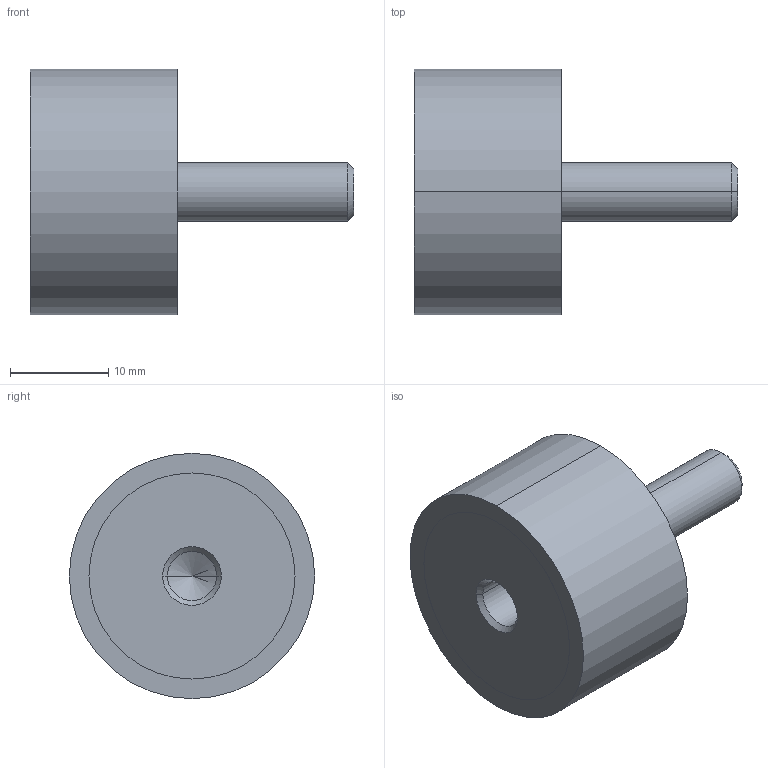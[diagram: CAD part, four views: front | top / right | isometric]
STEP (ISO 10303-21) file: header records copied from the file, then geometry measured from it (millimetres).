
FILE_DESCRIPTION (( 'STEP AP214' ), '1' );
FILE_NAME ('351-25-15-M6-ES-40.step', '2025-07-23T09:58:02', ( '' ), ( '' ), 'SwSTEP 2.0', 'SolidWorks 2022', '' );
FILE_SCHEMA (( 'AUTOMOTIVE_DESIGN' ));
Length unit declared in the file: millimetre
Products named in the file (1): 351-25-15-M6-ES-40
Bounding box: 33 x 25 x 25 mm (x, y, z)
Volume: 7713.4 mm3; surface area: 2601.3 mm2
Topology: 1 solids, 1 shells, 24 faces, 48 edges, 29 vertices
Faces by surface type: cylinder 12, cone 6, plane 6
Entity records: 740 total; most frequent: DIRECTION 124, CARTESIAN_POINT 100, ORIENTED_EDGE 92, AXIS2_PLACEMENT_3D 53, EDGE_CURVE 46, VERTEX_POINT 29, EDGE_LOOP 29, CIRCLE 28
